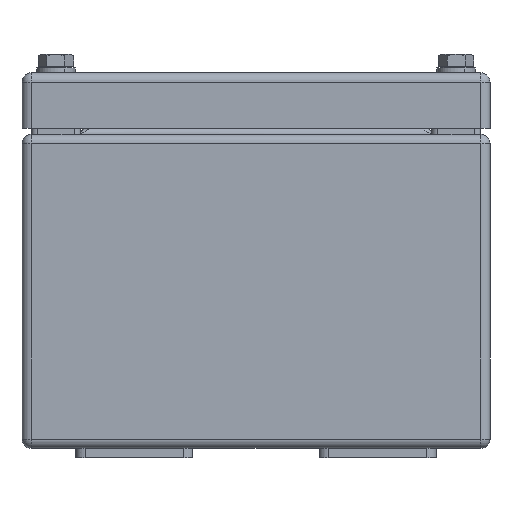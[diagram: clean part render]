
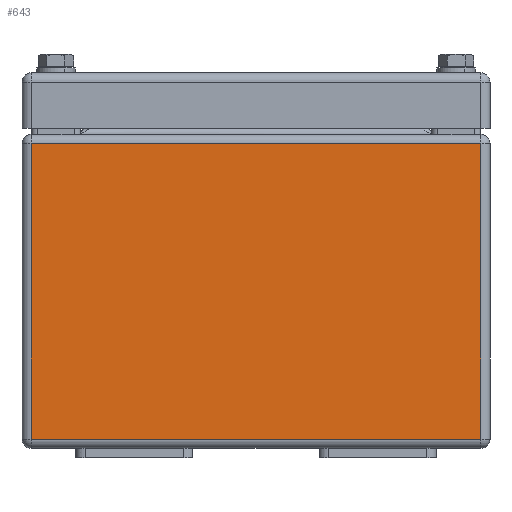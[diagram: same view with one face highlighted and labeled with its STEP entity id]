
A CAD part, left-side view. The second image highlights one B-rep face of the part: STEP entity #643.
In plain terms, the highlighted planar face has unit normal (-1, 0, 0).
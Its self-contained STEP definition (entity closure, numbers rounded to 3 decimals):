
#107 = ORIENTED_EDGE ( 'NONE', *, *, #5020, .T. ) ;
#135 = CARTESIAN_POINT ( 'NONE',  ( -76., 102., 76. ) ) ;
#643 = ADVANCED_FACE ( 'NONE', ( #2710 ), #4687, .F. ) ;
#689 = EDGE_LOOP ( 'NONE', ( #874, #4316, #107, #5254 ) ) ;
#793 = VECTOR ( 'NONE', #7555, 1000. ) ;
#874 = ORIENTED_EDGE ( 'NONE', *, *, #3283, .T. ) ;
#1120 = CARTESIAN_POINT ( 'NONE',  ( -76., 99., -73. ) ) ;
#1202 = VERTEX_POINT ( 'NONE', #8542 ) ;
#1378 = CARTESIAN_POINT ( 'NONE',  ( -76., 102., 73. ) ) ;
#1878 = CARTESIAN_POINT ( 'NONE',  ( -76., 3., -73. ) ) ;
#2179 = EDGE_CURVE ( 'NONE', #1202, #7752, #7324, .T. ) ;
#2710 = FACE_OUTER_BOUND ( 'NONE', #689, .T. ) ;
#2825 = DIRECTION ( 'NONE',  ( 0., -1., 0. ) ) ;
#3283 = EDGE_CURVE ( 'NONE', #7752, #5128, #6742, .T. ) ;
#3365 = LINE ( 'NONE', #4736, #7579 ) ;
#3544 = VECTOR ( 'NONE', #7401, 1000. ) ;
#4071 = VECTOR ( 'NONE', #2825, 1000. ) ;
#4316 = ORIENTED_EDGE ( 'NONE', *, *, #5505, .T. ) ;
#4687 = PLANE ( 'NONE',  #7783 ) ;
#4731 = DIRECTION ( 'NONE',  ( 0., 0., -1. ) ) ;
#4736 = CARTESIAN_POINT ( 'NONE',  ( -76., 3., 76. ) ) ;
#5020 = EDGE_CURVE ( 'NONE', #7354, #1202, #3365, .T. ) ;
#5128 = VERTEX_POINT ( 'NONE', #1120 ) ;
#5254 = ORIENTED_EDGE ( 'NONE', *, *, #2179, .T. ) ;
#5505 = EDGE_CURVE ( 'NONE', #5128, #7354, #7426, .T. ) ;
#6742 = LINE ( 'NONE', #8165, #793 ) ;
#7017 = CARTESIAN_POINT ( 'NONE',  ( -76., 99., 73. ) ) ;
#7324 = LINE ( 'NONE', #1378, #3544 ) ;
#7354 = VERTEX_POINT ( 'NONE', #1878 ) ;
#7401 = DIRECTION ( 'NONE',  ( 0., 1., 0. ) ) ;
#7426 = LINE ( 'NONE', #8110, #4071 ) ;
#7555 = DIRECTION ( 'NONE',  ( 0., 0., -1. ) ) ;
#7579 = VECTOR ( 'NONE', #8030, 1000. ) ;
#7752 = VERTEX_POINT ( 'NONE', #7017 ) ;
#7783 = AXIS2_PLACEMENT_3D ( 'NONE', #135, #8026, #4731 ) ;
#8026 = DIRECTION ( 'NONE',  ( 1., 0., 0. ) ) ;
#8030 = DIRECTION ( 'NONE',  ( 0., 0., 1. ) ) ;
#8110 = CARTESIAN_POINT ( 'NONE',  ( -76., 102., -73. ) ) ;
#8165 = CARTESIAN_POINT ( 'NONE',  ( -76., 99., 76. ) ) ;
#8542 = CARTESIAN_POINT ( 'NONE',  ( -76., 3., 73. ) ) ;
